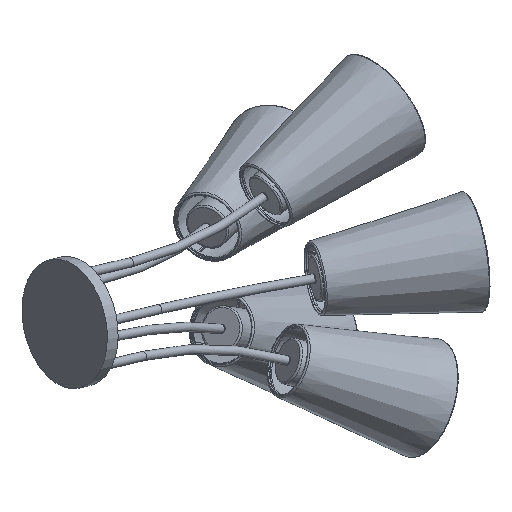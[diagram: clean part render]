
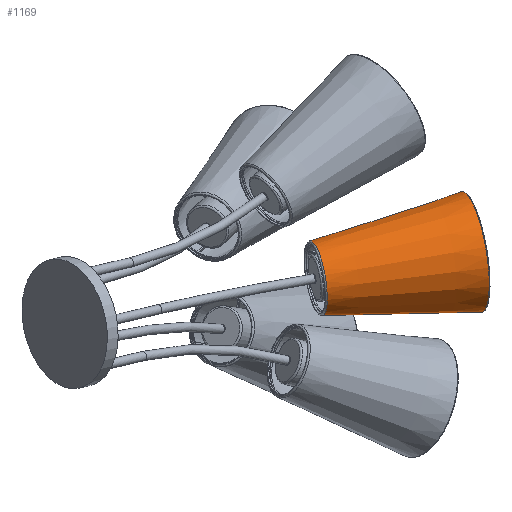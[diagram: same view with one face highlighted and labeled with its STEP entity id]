
A CAD part, left-side view. The second image highlights one B-rep face of the part: STEP entity #1169.
In plain terms, the highlighted conical face has half-angle 8.13 degrees and reference radius 52.419 mm.
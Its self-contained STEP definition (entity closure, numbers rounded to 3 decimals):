
#37=CONICAL_SURFACE('',#1346,52.418,8.13);
#280=FACE_BOUND('',#464,.T.);
#355=FACE_OUTER_BOUND('',#463,.T.);
#463=EDGE_LOOP('',(#989));
#464=EDGE_LOOP('',(#990));
#526=CIRCLE('',#1344,40.245);
#528=CIRCLE('',#1347,64.837);
#624=VERTEX_POINT('',#1991);
#626=VERTEX_POINT('',#1996);
#749=EDGE_CURVE('',#624,#624,#526,.T.);
#751=EDGE_CURVE('',#626,#626,#528,.T.);
#989=ORIENTED_EDGE('',*,*,#751,.T.);
#990=ORIENTED_EDGE('',*,*,#749,.F.);
#1169=ADVANCED_FACE('',(#355,#280),#37,.T.);
#1344=AXIS2_PLACEMENT_3D('',#1992,#1656,#1657);
#1346=AXIS2_PLACEMENT_3D('',#1995,#1660,#1661);
#1347=AXIS2_PLACEMENT_3D('',#1997,#1662,#1663);
#1656=DIRECTION('center_axis',(0.,1.,0.));
#1657=DIRECTION('ref_axis',(1.,0.,0.));
#1660=DIRECTION('center_axis',(0.,-1.,0.));
#1661=DIRECTION('ref_axis',(-1.,0.,0.));
#1662=DIRECTION('center_axis',(0.,1.,0.));
#1663=DIRECTION('ref_axis',(1.,0.,0.));
#1991=CARTESIAN_POINT('',(-40.245,103.283,0.));
#1992=CARTESIAN_POINT('Origin',(0.,103.283,0.));
#1995=CARTESIAN_POINT('Origin',(0.,18.071,0.));
#1996=CARTESIAN_POINT('',(-64.837,-68.859,0.));
#1997=CARTESIAN_POINT('Origin',(0.,-68.859,0.));
